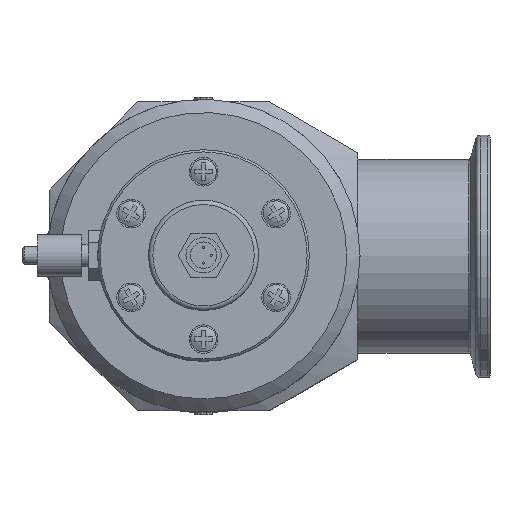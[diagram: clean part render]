
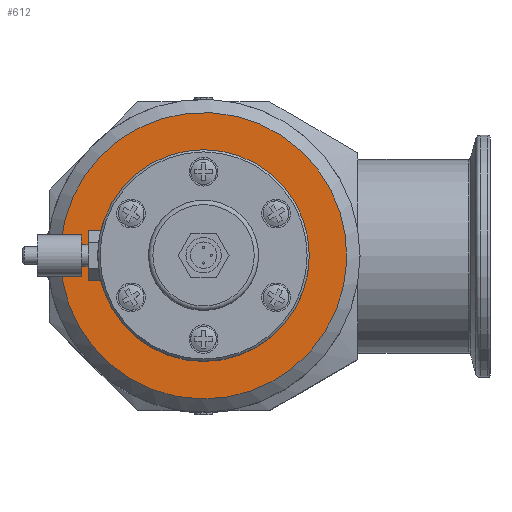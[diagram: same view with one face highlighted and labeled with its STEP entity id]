
A CAD part, top view. The second image highlights one B-rep face of the part: STEP entity #612.
In plain terms, the highlighted planar face has unit normal (0, 0, 1).
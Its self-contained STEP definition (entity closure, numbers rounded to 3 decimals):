
#612 = ADVANCED_FACE( '', ( #1020, #1021 ), #1022, .T. );
#1020 = FACE_OUTER_BOUND( '', #1507, .T. );
#1021 = FACE_BOUND( '', #1508, .T. );
#1022 = PLANE( '', #1509 );
#1507 = EDGE_LOOP( '', ( #2143 ) );
#1508 = EDGE_LOOP( '', ( #2144 ) );
#1509 = AXIS2_PLACEMENT_3D( '', #2145, #2146, #2147 );
#2143 = ORIENTED_EDGE( '', *, *, #3055, .T. );
#2144 = ORIENTED_EDGE( '', *, *, #3065, .T. );
#2145 = CARTESIAN_POINT( '', ( -35.5, 0., 41.5 ) );
#2146 = DIRECTION( '', ( 0., 0., 1. ) );
#2147 = DIRECTION( '', ( 1., 0., 0. ) );
#3055 = EDGE_CURVE( '', #3404, #3404, #3405, .T. );
#3065 = EDGE_CURVE( '', #3423, #3423, #3424, .T. );
#3404 = VERTEX_POINT( '', #4131 );
#3405 = CIRCLE( '', #4132, 32.5 );
#3423 = VERTEX_POINT( '', #4393 );
#3424 = CIRCLE( '', #4394, 8.456 );
#4131 = CARTESIAN_POINT( '', ( 32.5, 0., 41.5 ) );
#4132 = AXIS2_PLACEMENT_3D( '', #4858, #4859, #4860 );
#4393 = CARTESIAN_POINT( '', ( -8.456, 0., 41.5 ) );
#4394 = AXIS2_PLACEMENT_3D( '', #4873, #4874, #4875 );
#4858 = CARTESIAN_POINT( '', ( 0., 0., 41.5 ) );
#4859 = DIRECTION( '', ( 0., 0., 1. ) );
#4860 = DIRECTION( '', ( 1., 0., 0. ) );
#4873 = CARTESIAN_POINT( '', ( 0., 0., 41.5 ) );
#4874 = DIRECTION( '', ( 0., 0., -1. ) );
#4875 = DIRECTION( '', ( -1., 0., 0. ) );
